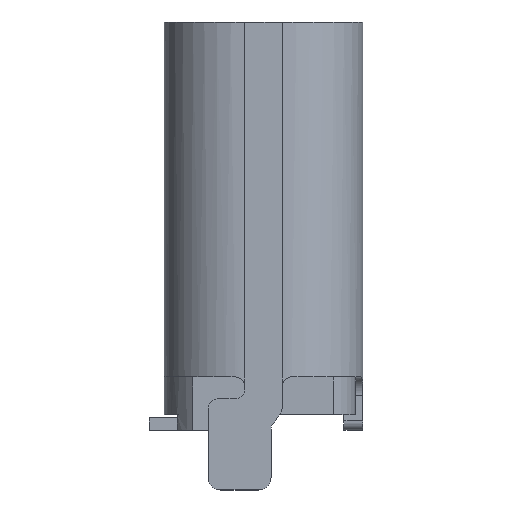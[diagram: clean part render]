
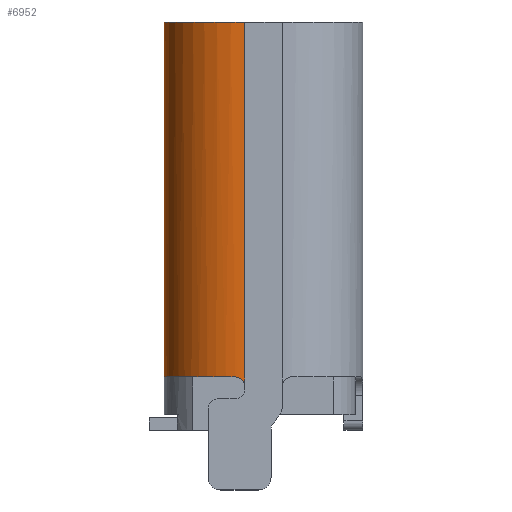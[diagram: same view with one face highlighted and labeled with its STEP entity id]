
A CAD part, left-side view. The second image highlights one B-rep face of the part: STEP entity #6952.
In plain terms, the highlighted cylindrical face has radius 1.28 mm (diameter 2.56 mm), a partial arc.
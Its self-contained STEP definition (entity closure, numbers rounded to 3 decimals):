
#148 = ORIENTED_EDGE ( 'NONE', *, *, #3990, .F. ) ;
#1153 = VERTEX_POINT ( 'NONE', #7804 ) ;
#1944 = CARTESIAN_POINT ( 'NONE',  ( -4.465, 5.653, -1.164 ) ) ;
#2131 = ORIENTED_EDGE ( 'NONE', *, *, #12636, .F. ) ;
#2188 = CARTESIAN_POINT ( 'NONE',  ( -4.47, 5.65, -1.28 ) ) ;
#2228 = CARTESIAN_POINT ( 'NONE',  ( -4.47, 3.767, -1.28 ) ) ;
#2277 = CARTESIAN_POINT ( 'NONE',  ( -4.47, 1.883, -1.28 ) ) ;
#2363 = CARTESIAN_POINT ( 'NONE',  ( -3.19, 0., 0. ) ) ;
#2378 = CARTESIAN_POINT ( 'NONE',  ( -3.19, 1.883, 0. ) ) ;
#2440 = CARTESIAN_POINT ( 'NONE',  ( -4.47, 0., -1.28 ) ) ;
#2514 = CARTESIAN_POINT ( 'NONE',  ( -3.19, 5.65, 0. ) ) ;
#2580 = CARTESIAN_POINT ( 'NONE',  ( -3.19, 3.767, 0. ) ) ;
#2836 = ORIENTED_EDGE ( 'NONE', *, *, #14686, .F. ) ;
#3276 = CARTESIAN_POINT ( 'NONE',  ( -4.47, 5.766, -1.276 ) ) ;
#3322 = CARTESIAN_POINT ( 'NONE',  ( -4.461, 5.65, -1.13 ) ) ;
#3438 = DIRECTION ( 'NONE',  ( 0., 0., 1. ) ) ;
#3525 = CARTESIAN_POINT ( 'NONE',  ( -4.47, 5.75, -1.28 ) ) ;
#3633 = CARTESIAN_POINT ( 'NONE',  ( -4.461, 5.65, -1.13 ) ) ;
#3808 = B_SPLINE_CURVE_WITH_KNOTS ( 'NONE', 3,
 ( #2440, #2277, #2228, #2188 ),
 .UNSPECIFIED., .F., .F.,
 ( 4, 4 ),
 ( 0., 1. ),
 .UNSPECIFIED. ) ;
#3938 = DIRECTION ( 'NONE',  ( 0., -1., 0. ) ) ;
#3990 = EDGE_CURVE ( 'NONE', #19504, #4239, #18213, .T. ) ;
#4004 = CARTESIAN_POINT ( 'NONE',  ( -3.19, 8.83, -1.28 ) ) ;
#4103 = AXIS2_PLACEMENT_3D ( 'NONE', #19144, #12341, #3438 ) ;
#4239 = VERTEX_POINT ( 'NONE', #13271 ) ;
#4928 = CARTESIAN_POINT ( 'NONE',  ( -4.47, 5.734, -1.266 ) ) ;
#5399 = CARTESIAN_POINT ( 'NONE',  ( -4.466, 5.658, -1.179 ) ) ;
#5456 = B_SPLINE_CURVE_WITH_KNOTS ( 'NONE', 3,
 ( #3322, #15414, #1944, #5399, #21039, #16675, #19563, #17957, #6031, #13277, #4928, #16927, #3276, #17744, #11366, #10287 ),
 .UNSPECIFIED., .F., .F.,
 ( 4, 3, 3, 3, 3, 4 ),
 ( 0., 0., 0., 0., 0., 0. ),
 .UNSPECIFIED. ) ;
#6031 = CARTESIAN_POINT ( 'NONE',  ( -4.47, 5.706, -1.248 ) ) ;
#6389 = VERTEX_POINT ( 'NONE', #21188 ) ;
#6817 = CARTESIAN_POINT ( 'NONE',  ( -4.47, 0., -1.28 ) ) ;
#6952 = ADVANCED_FACE ( 'NONE', ( #17698 ), #19087, .T. ) ;
#7804 = CARTESIAN_POINT ( 'NONE',  ( -3.19, 0., 0. ) ) ;
#7912 = B_SPLINE_CURVE_WITH_KNOTS ( 'NONE', 3,
 ( #12883, #10231, #3525, #17713 ),
 .UNSPECIFIED., .F., .F.,
 ( 4, 4 ),
 ( 0., 1. ),
 .UNSPECIFIED. ) ;
#8464 = B_SPLINE_CURVE_WITH_KNOTS ( 'NONE', 3,
 ( #2514, #2580, #2378, #2363 ),
 .UNSPECIFIED., .F., .F.,
 ( 4, 4 ),
 ( 0., 1. ),
 .UNSPECIFIED. ) ;
#9138 = CIRCLE ( 'NONE', #4103, 1.28 ) ;
#9943 = AXIS2_PLACEMENT_3D ( 'NONE', #15796, #15787, #15762 ) ;
#10169 = EDGE_LOOP ( 'NONE', ( #148, #18479, #15854, #11397, #2836, #2131 ) ) ;
#10231 = CARTESIAN_POINT ( 'NONE',  ( -4.47, 5.7, -1.28 ) ) ;
#10287 = CARTESIAN_POINT ( 'NONE',  ( -4.47, 5.8, -1.28 ) ) ;
#10892 = VERTEX_POINT ( 'NONE', #6817 ) ;
#11145 = VERTEX_POINT ( 'NONE', #20538 ) ;
#11366 = CARTESIAN_POINT ( 'NONE',  ( -4.47, 5.789, -1.28 ) ) ;
#11397 = ORIENTED_EDGE ( 'NONE', *, *, #12640, .F. ) ;
#12341 = DIRECTION ( 'NONE',  ( 0., -1., 0. ) ) ;
#12636 = EDGE_CURVE ( 'NONE', #4239, #1153, #8464, .T. ) ;
#12640 = EDGE_CURVE ( 'NONE', #10892, #11145, #3808, .T. ) ;
#12883 = CARTESIAN_POINT ( 'NONE',  ( -4.47, 5.65, -1.28 ) ) ;
#13140 = DIRECTION ( 'NONE',  ( 0., 0., 1. ) ) ;
#13271 = CARTESIAN_POINT ( 'NONE',  ( -3.19, 5.65, 0. ) ) ;
#13277 = CARTESIAN_POINT ( 'NONE',  ( -4.47, 5.72, -1.257 ) ) ;
#13592 = EDGE_CURVE ( 'NONE', #11145, #6389, #7912, .T. ) ;
#14686 = EDGE_CURVE ( 'NONE', #1153, #10892, #9138, .T. ) ;
#15414 = CARTESIAN_POINT ( 'NONE',  ( -4.463, 5.65, -1.147 ) ) ;
#15762 = DIRECTION ( 'NONE',  ( 0., 0., 1. ) ) ;
#15787 = DIRECTION ( 'NONE',  ( 0., 1., 0. ) ) ;
#15796 = CARTESIAN_POINT ( 'NONE',  ( -3.19, 5.65, -1.28 ) ) ;
#15854 = ORIENTED_EDGE ( 'NONE', *, *, #13592, .F. ) ;
#16213 = EDGE_CURVE ( 'NONE', #19504, #6389, #5456, .T. ) ;
#16675 = CARTESIAN_POINT ( 'NONE',  ( -4.468, 5.672, -1.21 ) ) ;
#16927 = CARTESIAN_POINT ( 'NONE',  ( -4.47, 5.75, -1.272 ) ) ;
#17698 = FACE_OUTER_BOUND ( 'NONE', #10169, .T. ) ;
#17713 = CARTESIAN_POINT ( 'NONE',  ( -4.47, 5.8, -1.28 ) ) ;
#17744 = CARTESIAN_POINT ( 'NONE',  ( -4.47, 5.777, -1.279 ) ) ;
#17957 = CARTESIAN_POINT ( 'NONE',  ( -4.469, 5.693, -1.236 ) ) ;
#18213 = CIRCLE ( 'NONE', #9943, 1.28 ) ;
#18479 = ORIENTED_EDGE ( 'NONE', *, *, #16213, .T. ) ;
#19087 = CYLINDRICAL_SURFACE ( 'NONE', #20260, 1.28 ) ;
#19144 = CARTESIAN_POINT ( 'NONE',  ( -3.19, 0., -1.28 ) ) ;
#19504 = VERTEX_POINT ( 'NONE', #3633 ) ;
#19563 = CARTESIAN_POINT ( 'NONE',  ( -4.469, 5.683, -1.223 ) ) ;
#20260 = AXIS2_PLACEMENT_3D ( 'NONE', #4004, #3938, #13140 ) ;
#20538 = CARTESIAN_POINT ( 'NONE',  ( -4.47, 5.65, -1.28 ) ) ;
#21039 = CARTESIAN_POINT ( 'NONE',  ( -4.467, 5.664, -1.195 ) ) ;
#21188 = CARTESIAN_POINT ( 'NONE',  ( -4.47, 5.8, -1.28 ) ) ;
